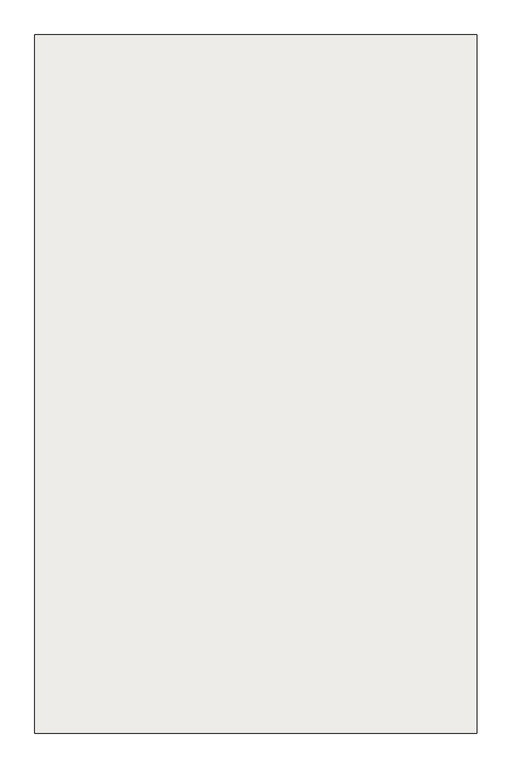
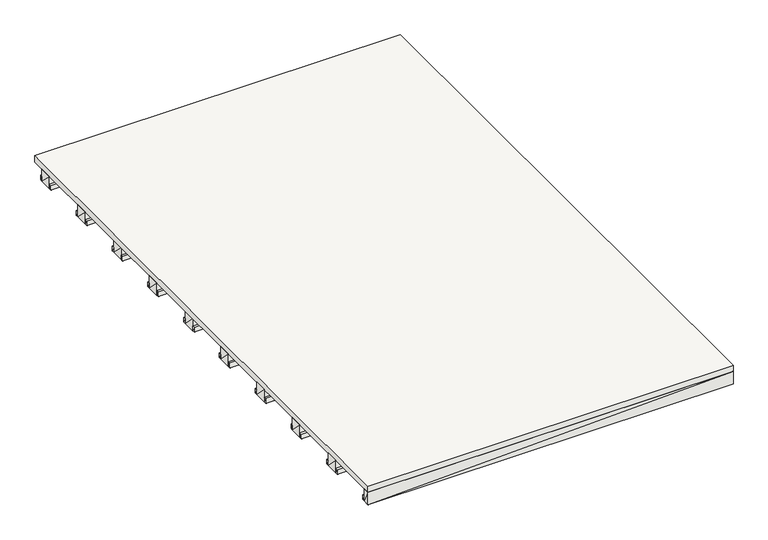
"""IFC4 building model written with IfcOpenShell, lengths in millimetres: slab geometry."""

from ifc_helpers import new_model, si_unit, frame, origin, place, context, project, spatial, polyline, outline, extrude, faceted_brep, source, transform, mapped, element, save


def slab_f5d0fd54(model_context):
    return source(origin(), model_context, "Body", "SolidModel", [
        faceted_brep([(-1119.8, -207.405, -120.0), (1119.795, -207.405, -120.0), (1119.795, -287.405, -120.0), (-1119.8, -287.405, -120.0), (-1119.8, -287.405, -40.0), (1119.795, -287.405, -40.0), (1119.795, -207.405, -40.0), (-1119.8, -207.405, -40.0)], [[[0, 1, 2, 3]], [[4, 5, 6, 7]], [[4, 3, 5]], [[3, 2, 5]], [[5, 2, 6]], [[2, 1, 6]], [[6, 1, 7]], [[1, 0, 7]], [[7, 0, 4]], [[0, 3, 4]]]),
        faceted_brep([(-1119.8, 1312.595, -120.0), (1119.795, 1312.595, -120.0), (1119.795, 1232.595, -120.0), (-1119.8, 1232.595, -120.0), (-1119.8, 1232.595, -40.0), (1119.795, 1232.595, -40.0), (1119.795, 1312.595, -40.0), (-1119.8, 1312.595, -40.0)], [[[0, 1, 2, 3]], [[4, 5, 6, 7]], [[4, 3, 5]], [[3, 2, 5]], [[5, 2, 6]], [[2, 1, 6]], [[6, 1, 7]], [[1, 0, 7]], [[7, 0, 4]], [[0, 3, 4]]]),
        faceted_brep([(-1119.8, 1232.595, -120.0), (1119.795, 1232.595, -120.0), (1119.795, 1217.595, -120.0), (-1119.8, 1217.595, -120.0), (-1119.8, 1217.595, -90.0), (1119.795, 1217.595, -90.0), (1119.795, 1232.595, -90.0), (-1119.8, 1232.595, -90.0)], [[[0, 1, 2, 3]], [[4, 5, 6, 7]], [[4, 3, 5]], [[3, 2, 5]], [[5, 2, 6]], [[2, 1, 6]], [[6, 1, 7]], [[1, 0, 7]], [[7, 0, 4]], [[0, 3, 4]]]),
        faceted_brep([(-1119.8, -967.405, -120.0), (1119.795, -967.405, -120.0), (1119.795, -1047.405, -120.0), (-1119.8, -1047.405, -120.0), (-1119.8, -1047.405, -40.0), (1119.795, -1047.405, -40.0), (1119.795, -967.405, -40.0), (-1119.8, -967.405, -40.0)], [[[0, 1, 2, 3]], [[4, 5, 6, 7]], [[4, 3, 5]], [[3, 2, 5]], [[5, 2, 6]], [[2, 1, 6]], [[6, 1, 7]], [[1, 0, 7]], [[7, 0, 4]], [[0, 3, 4]]]),
        faceted_brep([(-1119.8, 1692.595, -120.0), (1119.795, 1692.595, -120.0), (1119.795, 1612.595, -120.0), (-1119.8, 1612.595, -120.0), (-1119.8, 1612.595, -40.0), (1119.795, 1612.595, -40.0), (1119.795, 1692.595, -40.0), (-1119.8, 1692.595, -40.0)], [[[0, 1, 2, 3]], [[4, 5, 6, 7]], [[4, 3, 5]], [[3, 2, 5]], [[5, 2, 6]], [[2, 1, 6]], [[6, 1, 7]], [[1, 0, 7]], [[7, 0, 4]], [[0, 3, 4]]]),
        faceted_brep([(-1119.8, -1347.405, -120.0), (1119.795, -1347.405, -120.0), (1119.795, -1427.405, -120.0), (-1119.8, -1427.405, -120.0), (-1119.8, -1427.405, -40.0), (1119.795, -1427.405, -40.0), (1119.795, -1347.405, -40.0), (-1119.8, -1347.405, -40.0)], [[[0, 1, 2, 3]], [[4, 5, 6, 7]], [[4, 3, 5]], [[3, 2, 5]], [[5, 2, 6]], [[2, 1, 6]], [[6, 1, 7]], [[1, 0, 7]], [[7, 0, 4]], [[0, 3, 4]]]),
        faceted_brep([(-1119.8, -1047.405, -120.0), (1119.795, -1047.405, -120.0), (1119.795, -1062.405, -120.0), (-1119.8, -1062.405, -120.0), (-1119.8, -1062.405, -90.0), (1119.795, -1062.405, -90.0), (1119.795, -1047.405, -90.0), (-1119.8, -1047.405, -90.0)], [[[0, 1, 2, 3]], [[4, 5, 6, 7]], [[4, 3, 5]], [[3, 2, 5]], [[5, 2, 6]], [[2, 1, 6]], [[6, 1, 7]], [[1, 0, 7]], [[7, 0, 4]], [[0, 3, 4]]]),
        faceted_brep([(-1119.8, -287.405, -120.0), (1119.795, -287.405, -120.0), (1119.795, -302.405, -120.0), (-1119.8, -302.405, -120.0), (-1119.8, -302.405, -90.0), (1119.795, -302.405, -90.0), (1119.795, -287.405, -90.0), (-1119.8, -287.405, -90.0)], [[[0, 1, 2, 3]], [[4, 5, 6, 7]], [[4, 3, 5]], [[3, 2, 5]], [[5, 2, 6]], [[2, 1, 6]], [[6, 1, 7]], [[1, 0, 7]], [[7, 0, 4]], [[0, 3, 4]]]),
        faceted_brep([(-1119.8, 1612.595, -120.0), (1119.795, 1612.595, -120.0), (1119.795, 1597.595, -120.0), (-1119.8, 1597.595, -120.0), (-1119.8, 1597.595, -90.0), (1119.795, 1597.595, -90.0), (1119.795, 1612.595, -90.0), (-1119.8, 1612.595, -90.0)], [[[0, 1, 2, 3]], [[4, 5, 6, 7]], [[4, 3, 5]], [[3, 2, 5]], [[5, 2, 6]], [[2, 1, 6]], [[6, 1, 7]], [[1, 0, 7]], [[7, 0, 4]], [[0, 3, 4]]]),
        faceted_brep([(-1119.8, 92.595, -120.0), (1119.795, 92.595, -120.0), (1119.795, 77.595, -120.0), (-1119.8, 77.595, -120.0), (-1119.8, 77.595, -90.0), (1119.795, 77.595, -90.0), (1119.795, 92.595, -90.0), (-1119.8, 92.595, -90.0)], [[[0, 1, 2, 3]], [[4, 5, 6, 7]], [[4, 3, 5]], [[3, 2, 5]], [[5, 2, 6]], [[2, 1, 6]], [[6, 1, 7]], [[1, 0, 7]], [[7, 0, 4]], [[0, 3, 4]]]),
        faceted_brep([(-1119.8, 472.595, -120.0), (1119.795, 472.595, -120.0), (1119.795, 457.595, -120.0), (-1119.8, 457.595, -120.0), (-1119.8, 457.595, -90.0), (1119.795, 457.595, -90.0), (1119.795, 472.595, -90.0), (-1119.8, 472.595, -90.0)], [[[0, 1, 2, 3]], [[4, 5, 6, 7]], [[4, 3, 5]], [[3, 2, 5]], [[5, 2, 6]], [[2, 1, 6]], [[6, 1, 7]], [[1, 0, 7]], [[7, 0, 4]], [[0, 3, 4]]]),
        faceted_brep([(-1119.8, 852.595, -120.0), (1119.795, 852.595, -120.0), (1119.795, 837.595, -120.0), (-1119.8, 837.595, -120.0), (-1119.8, 837.595, -90.0), (1119.795, 837.595, -90.0), (1119.795, 852.595, -90.0), (-1119.8, 852.595, -90.0)], [[[0, 1, 2, 3]], [[4, 5, 6, 7]], [[4, 3, 5]], [[3, 2, 5]], [[5, 2, 6]], [[2, 1, 6]], [[6, 1, 7]], [[1, 0, 7]], [[7, 0, 4]], [[0, 3, 4]]]),
        faceted_brep([(-1119.8, -952.405, -120.0), (1119.795, -952.405, -120.0), (1119.795, -967.405, -120.0), (-1119.8, -967.405, -120.0), (-1119.8, -967.405, -90.0), (1119.795, -967.405, -90.0), (1119.795, -952.405, -90.0), (-1119.8, -952.405, -90.0)], [[[0, 1, 2, 3]], [[4, 5, 6, 7]], [[4, 3, 5]], [[3, 2, 5]], [[5, 2, 6]], [[2, 1, 6]], [[6, 1, 7]], [[1, 0, 7]], [[7, 0, 4]], [[0, 3, 4]]]),
        faceted_brep([(-1119.8, -1727.405, -120.0), (1119.795, -1727.405, -120.0), (1119.795, -1767.395, -120.0), (-1119.8, -1767.395, -120.0), (-1119.8, -1767.395, -40.0), (1119.795, -1767.395, -40.0), (1119.795, -1727.405, -40.0), (-1119.8, -1727.405, -40.0)], [[[0, 1, 2, 3]], [[4, 5, 6, 7]], [[4, 3, 5]], [[3, 2, 5]], [[5, 2, 6]], [[2, 1, 6]], [[6, 1, 7]], [[1, 0, 7]], [[7, 0, 4]], [[0, 3, 4]]]),
        faceted_brep([(-1119.8, -1427.405, -120.0), (1119.795, -1427.405, -120.0), (1119.795, -1442.405, -120.0), (-1119.8, -1442.405, -120.0), (-1119.8, -1442.405, -90.0), (1119.795, -1442.405, -90.0), (1119.795, -1427.405, -90.0), (-1119.8, -1427.405, -90.0)], [[[0, 1, 2, 3]], [[4, 5, 6, 7]], [[4, 3, 5]], [[3, 2, 5]], [[5, 2, 6]], [[2, 1, 6]], [[6, 1, 7]], [[1, 0, 7]], [[7, 0, 4]], [[0, 3, 4]]]),
        faceted_brep([(-1119.8, -1332.405, -120.0), (1119.795, -1332.405, -120.0), (1119.795, -1347.405, -120.0), (-1119.8, -1347.405, -120.0), (-1119.8, -1347.405, -90.0), (1119.795, -1347.405, -90.0), (1119.795, -1332.405, -90.0), (-1119.8, -1332.405, -90.0)], [[[0, 1, 2, 3]], [[4, 5, 6, 7]], [[4, 3, 5]], [[3, 2, 5]], [[5, 2, 6]], [[2, 1, 6]], [[6, 1, 7]], [[1, 0, 7]], [[7, 0, 4]], [[0, 3, 4]]]),
        faceted_brep([(-1119.8, 947.595, -120.0), (1119.795, 947.595, -120.0), (1119.795, 932.595, -120.0), (-1119.8, 932.595, -120.0), (-1119.8, 932.595, -90.0), (1119.795, 932.595, -90.0), (1119.795, 947.595, -90.0), (-1119.8, 947.595, -90.0)], [[[0, 1, 2, 3]], [[4, 5, 6, 7]], [[4, 3, 5]], [[3, 2, 5]], [[5, 2, 6]], [[2, 1, 6]], [[6, 1, 7]], [[1, 0, 7]], [[7, 0, 4]], [[0, 3, 4]]]),
        faceted_brep([(-1119.8, -587.405, -120.0), (1119.795, -587.405, -120.0), (1119.795, -667.405, -120.0), (-1119.8, -667.405, -120.0), (-1119.8, -667.405, -40.0), (1119.795, -667.405, -40.0), (1119.795, -587.405, -40.0), (-1119.8, -587.405, -40.0)], [[[0, 1, 2, 3]], [[4, 5, 6, 7]], [[4, 3, 5]], [[3, 2, 5]], [[5, 2, 6]], [[2, 1, 6]], [[6, 1, 7]], [[1, 0, 7]], [[7, 0, 4]], [[0, 3, 4]]]),
        faceted_brep([(-1119.8, 187.595, -120.0), (1119.795, 187.595, -120.0), (1119.795, 172.595, -120.0), (-1119.8, 172.595, -120.0), (-1119.8, 172.595, -90.0), (1119.795, 172.595, -90.0), (1119.795, 187.595, -90.0), (-1119.8, 187.595, -90.0)], [[[0, 1, 2, 3]], [[4, 5, 6, 7]], [[4, 3, 5]], [[3, 2, 5]], [[5, 2, 6]], [[2, 1, 6]], [[6, 1, 7]], [[1, 0, 7]], [[7, 0, 4]], [[0, 3, 4]]]),
        faceted_brep([(-1119.8, 1327.595, -120.0), (1119.795, 1327.595, -120.0), (1119.795, 1312.595, -120.0), (-1119.8, 1312.595, -120.0), (-1119.8, 1312.595, -90.0), (1119.795, 1312.595, -90.0), (1119.795, 1327.595, -90.0), (-1119.8, 1327.595, -90.0)], [[[0, 1, 2, 3]], [[4, 5, 6, 7]], [[4, 3, 5]], [[3, 2, 5]], [[5, 2, 6]], [[2, 1, 6]], [[6, 1, 7]], [[1, 0, 7]], [[7, 0, 4]], [[0, 3, 4]]]),
        extrude(outline(polyline([(1119.8, 1767.395), (1119.79, -1767.395), (-1119.8, -1767.395), (-1119.8, 1767.395), (1119.8, 1767.395)])), frame((0.0, 0.0, -40.0), z_axis=(0.0, 0.0, 1.0), x_axis=(1.0, 0.0, 0.0)), (0.0, 0.0, 1.0), 40.0),
        faceted_brep([(-1119.8, 932.595, -120.0), (1119.795, 932.595, -120.0), (1119.795, 852.595, -120.0), (-1119.8, 852.595, -120.0), (-1119.8, 852.595, -40.0), (1119.795, 852.595, -40.0), (1119.795, 932.595, -40.0), (-1119.8, 932.595, -40.0)], [[[0, 1, 2, 3]], [[4, 5, 6, 7]], [[4, 3, 5]], [[3, 2, 5]], [[5, 2, 6]], [[2, 1, 6]], [[6, 1, 7]], [[1, 0, 7]], [[7, 0, 4]], [[0, 3, 4]]]),
        faceted_brep([(-1119.8, 1707.595, -120.0), (1119.795, 1707.595, -120.0), (1119.795, 1692.595, -120.0), (-1119.8, 1692.595, -120.0), (-1119.8, 1692.595, -90.0), (1119.795, 1692.595, -90.0), (1119.795, 1707.595, -90.0), (-1119.8, 1707.595, -90.0)], [[[0, 1, 2, 3]], [[4, 5, 6, 7]], [[4, 3, 5]], [[3, 2, 5]], [[5, 2, 6]], [[2, 1, 6]], [[6, 1, 7]], [[1, 0, 7]], [[7, 0, 4]], [[0, 3, 4]]]),
        faceted_brep([(-1119.8, -572.405, -120.0), (1119.795, -572.405, -120.0), (1119.795, -587.405, -120.0), (-1119.8, -587.405, -120.0), (-1119.8, -587.405, -90.0), (1119.795, -587.405, -90.0), (1119.795, -572.405, -90.0), (-1119.8, -572.405, -90.0)], [[[0, 1, 2, 3]], [[4, 5, 6, 7]], [[4, 3, 5]], [[3, 2, 5]], [[5, 2, 6]], [[2, 1, 6]], [[6, 1, 7]], [[1, 0, 7]], [[7, 0, 4]], [[0, 3, 4]]]),
        faceted_brep([(-1119.8, -192.405, -120.0), (1119.795, -192.405, -120.0), (1119.795, -207.405, -120.0), (-1119.8, -207.405, -120.0), (-1119.8, -207.405, -90.0), (1119.795, -207.405, -90.0), (1119.795, -192.405, -90.0), (-1119.8, -192.405, -90.0)], [[[0, 1, 2, 3]], [[4, 5, 6, 7]], [[4, 3, 5]], [[3, 2, 5]], [[5, 2, 6]], [[2, 1, 6]], [[6, 1, 7]], [[1, 0, 7]], [[7, 0, 4]], [[0, 3, 4]]]),
        faceted_brep([(-1119.8, -667.405, -120.0), (1119.795, -667.405, -120.0), (1119.795, -682.405, -120.0), (-1119.8, -682.405, -120.0), (-1119.8, -682.405, -90.0), (1119.795, -682.405, -90.0), (1119.795, -667.405, -90.0), (-1119.8, -667.405, -90.0)], [[[0, 1, 2, 3]], [[4, 5, 6, 7]], [[4, 3, 5]], [[3, 2, 5]], [[5, 2, 6]], [[2, 1, 6]], [[6, 1, 7]], [[1, 0, 7]], [[7, 0, 4]], [[0, 3, 4]]]),
        faceted_brep([(-1119.8, 552.595, -120.0), (1119.795, 552.595, -120.0), (1119.795, 472.595, -120.0), (-1119.8, 472.595, -120.0), (-1119.8, 472.595, -40.0), (1119.795, 472.595, -40.0), (1119.795, 552.595, -40.0), (-1119.8, 552.595, -40.0)], [[[0, 1, 2, 3]], [[4, 5, 6, 7]], [[4, 3, 5]], [[3, 2, 5]], [[5, 2, 6]], [[2, 1, 6]], [[6, 1, 7]], [[1, 0, 7]], [[7, 0, 4]], [[0, 3, 4]]]),
        faceted_brep([(-1119.8, 567.595, -120.0), (1119.795, 567.595, -120.0), (1119.795, 552.595, -120.0), (-1119.8, 552.595, -120.0), (-1119.8, 552.595, -90.0), (1119.795, 552.595, -90.0), (1119.795, 567.595, -90.0), (-1119.8, 567.595, -90.0)], [[[0, 1, 2, 3]], [[4, 5, 6, 7]], [[4, 3, 5]], [[3, 2, 5]], [[5, 2, 6]], [[2, 1, 6]], [[6, 1, 7]], [[1, 0, 7]], [[7, 0, 4]], [[0, 3, 4]]]),
        faceted_brep([(-1119.8, -1712.405, -120.0), (1119.795, -1712.405, -120.0), (1119.795, -1727.405, -120.0), (-1119.8, -1727.405, -120.0), (-1119.8, -1727.405, -90.0), (1119.795, -1727.405, -90.0), (1119.795, -1712.405, -90.0), (-1119.8, -1712.405, -90.0)], [[[0, 1, 2, 3]], [[4, 5, 6, 7]], [[4, 3, 5]], [[3, 2, 5]], [[5, 2, 6]], [[2, 1, 6]], [[6, 1, 7]], [[1, 0, 7]], [[7, 0, 4]], [[0, 3, 4]]]),
        faceted_brep([(-1119.8, 172.595, -120.0), (1119.795, 172.595, -120.0), (1119.795, 92.595, -120.0), (-1119.8, 92.595, -120.0), (-1119.8, 92.595, -40.0), (1119.795, 92.595, -40.0), (1119.795, 172.595, -40.0), (-1119.8, 172.595, -40.0)], [[[0, 1, 2, 3]], [[4, 5, 6, 7]], [[4, 3, 5]], [[3, 2, 5]], [[5, 2, 6]], [[2, 1, 6]], [[6, 1, 7]], [[1, 0, 7]], [[7, 0, 4]], [[0, 3, 4]]]),
    ])


if __name__ == "__main__":
    model = new_model("IFC4")
    model_context = context("Model", 3, world=origin())
    ifc_project = project(units=[si_unit("LENGTHUNIT", "METRE", prefix="MILLI")], contexts=[model_context])
    site = spatial("IfcSite", under=ifc_project)
    building = spatial("IfcBuilding", under=site)
    placement = place(None, origin())
    slab_shape = slab_f5d0fd54(model_context)
    element("IfcSlab", 1, at=placement, inside=building, context=model_context, shape_type="MappedRepresentation", body=[
        mapped(slab_shape, transform((0.0, 0.0, 0.0), x_axis=(1.0, 0.0, 0.0), y_axis=(0.0, 1.0, 0.0), z_axis=(0.0, 0.0, 1.0))),
    ])
    save(model, "model.ifc")
